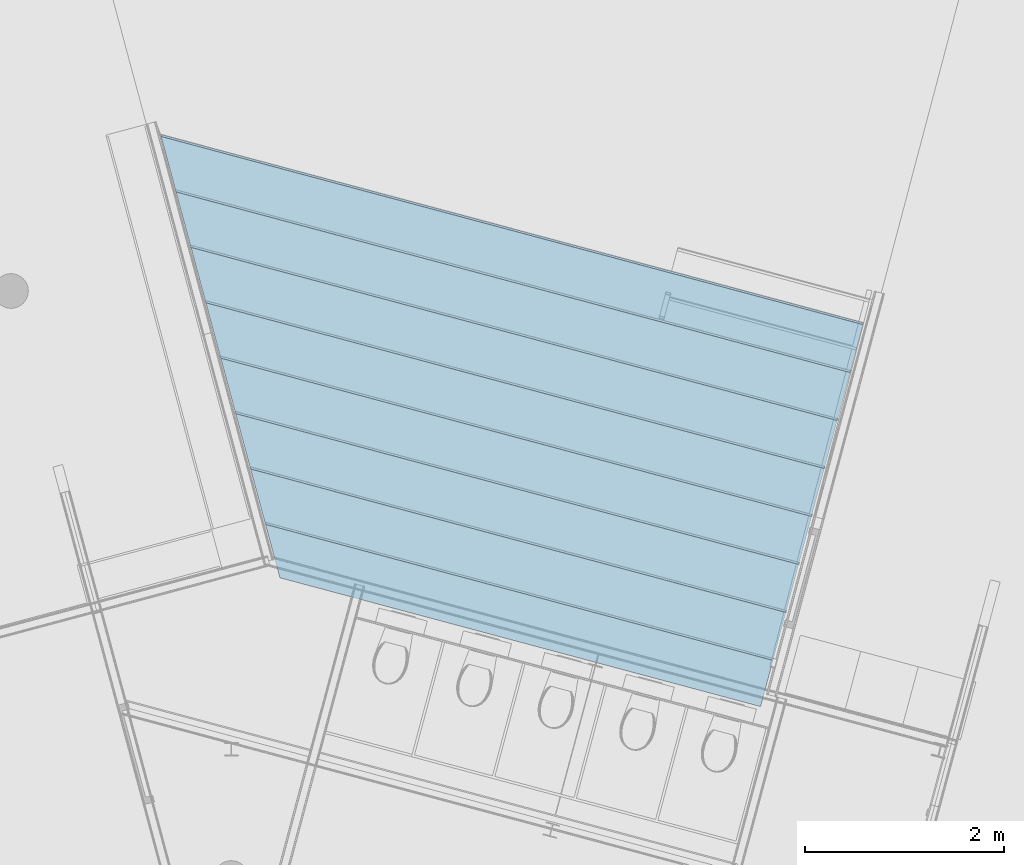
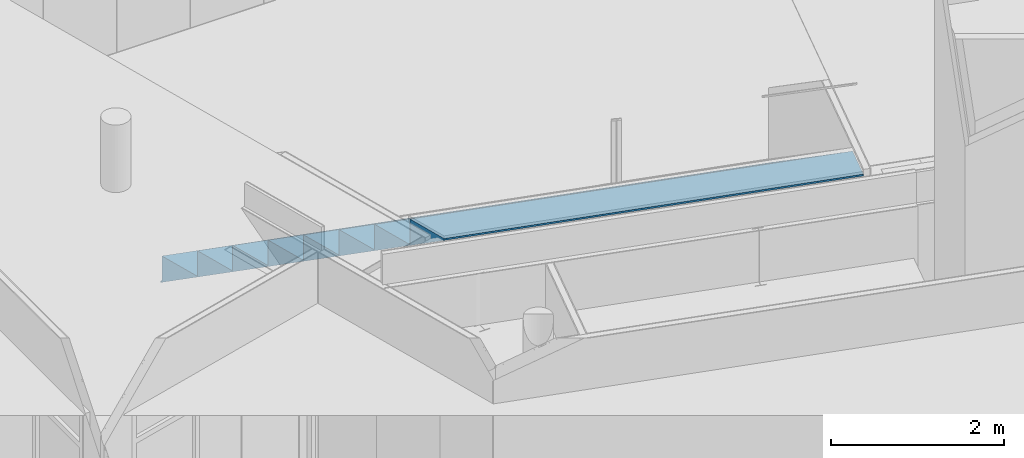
# One storey, part 22 of 167: 1 stair flight, 1 element without a shape of its own.
"""IFC2X3 building model written with IfcOpenShell, lengths in millimetres."""

import ifcopenshell
import ifcopenshell.guid

model = None  # the IFC model being written
_history = None  # IfcOwnerHistory: only IFC2X3 demands one
_inside = {}  # id of a spatial element -> (the spatial element, [elements in it])
_under = {}  # id of a project, library or spatial element -> (it, [spatial elements below it])
_declared = {}  # id of a project -> (the project, [libraries it declares])
_typed = {}  # id of a type object -> (the type object, [elements of that type])
_made_of = {}  # id of a material, layer set ... -> (it, [elements and type objects made of it])


def new_model(schema):
    """Start an empty IFC model of exactly this schema.

    Asked for "IFC4X3", IfcOpenShell would pick the latest addendum, in which some entities
    have other attributes; the version numbers below select the first issue.
    IFC2X3 requires an IfcOwnerHistory on every rooted entity: one is made here for all.
    """
    global model, _history
    if schema == "IFC4X3":
        model = ifcopenshell.file(schema_version=(4, 3, 0, 0))
    else:
        model = ifcopenshell.file(schema=schema)
    _inside.clear()
    _under.clear()
    _declared.clear()
    _typed.clear()
    _made_of.clear()
    _history = None
    if model.schema == "IFC2X3":
        org = make("IfcOrganization", Name="unknown")
        user = make(
            "IfcPersonAndOrganization",
            ThePerson=make("IfcPerson", FamilyName="unknown"),
            TheOrganization=org,
        )
        app = make(
            "IfcApplication",
            ApplicationDeveloper=org,
            Version="unknown",
            ApplicationFullName="unknown",
            ApplicationIdentifier="unknown",
        )
        _history = make(
            "IfcOwnerHistory",
            OwningUser=user,
            OwningApplication=app,
            ChangeAction="ADDED",
            CreationDate=0,
        )
    return model


def make(cls, **values):
    """One entity of the class cls with the attributes given. An attribute that is None is left unset."""
    return model.create_entity(
        cls, **{name: value for name, value in values.items() if value is not None}
    )


def entity(cls, *values):
    """Any entity or typed value of the class cls, its attributes in the order of the schema. None: left unset."""
    e = model.create_entity(cls)
    for i, value in enumerate(values):
        if value is not None:
            e[i] = value
    return e


def rooted(cls, **values):
    """An entity with a GlobalId (a new one), such as an element, a storey or a relation."""
    return make(cls, GlobalId=ifcopenshell.guid.new(), OwnerHistory=_history, **values)


def si_unit(unit_type, name, prefix=None):
    """IfcSIUnit, for example si_unit("LENGTHUNIT", "METRE", prefix="MILLI")."""
    return make("IfcSIUnit", UnitType=unit_type, Prefix=prefix, Name=name)


def converted_unit(unit_type, name, factor, base, dimensions=None, offset=None):
    """IfcConversionBasedUnit, such as the inch: factor (a typed value) times the base unit."""
    return make(
        "IfcConversionBasedUnit"
        if offset is None
        else "IfcConversionBasedUnitWithOffset",
        ConversionOffset=offset,
        Dimensions=None
        if dimensions is None
        else entity("IfcDimensionalExponents", *dimensions),
        UnitType=unit_type,
        Name=name,
        ConversionFactor=make(
            "IfcMeasureWithUnit", ValueComponent=factor, UnitComponent=base
        ),
    )


def derived_unit(unit_type, elements):
    """IfcDerivedUnit: a product of units, each with its exponent."""
    return make(
        "IfcDerivedUnit",
        Elements=[
            make("IfcDerivedUnitElement", Unit=unit, Exponent=power)
            for unit, power in elements
        ],
        UnitType=unit_type,
    )


def money_unit(currency):
    """IfcMonetaryUnit."""
    return make("IfcMonetaryUnit", Currency=currency)


def assignment(units):
    """IfcUnitAssignment: the units of a project."""
    return None if units is None else make("IfcUnitAssignment", Units=units)


def point(xyz):
    """IfcCartesianPoint."""
    return None if xyz is None else make("IfcCartesianPoint", Coordinates=xyz)


def direction(xyz):
    """IfcDirection."""
    return None if xyz is None else make("IfcDirection", DirectionRatios=xyz)


def frame(location, z_axis=None, x_axis=None):
    """IfcAxis2Placement3D, a coordinate frame: its origin and axes. An axis left out is left unset."""
    return make(
        "IfcAxis2Placement3D",
        Location=point(location),
        Axis=direction(z_axis),
        RefDirection=direction(x_axis),
    )


def origin_with_axes():
    """The frame at (0, 0, 0) with the z axis (0, 0, 1) and the x axis (1, 0, 0) written out."""
    return frame((0.0, 0.0, 0.0), z_axis=(0.0, 0.0, 1.0), x_axis=(1.0, 0.0, 0.0))


def place(relative_to, where):
    """IfcLocalPlacement: puts the frame where relative to a parent placement (None: the world)."""
    return make(
        "IfcLocalPlacement", PlacementRelTo=relative_to, RelativePlacement=where
    )


def context(
    kind, dimensions, precision=None, world=None, true_north=None, identifier=None
):
    """IfcGeometricRepresentationContext, for example the 3D "Model" context."""
    return make(
        "IfcGeometricRepresentationContext",
        ContextIdentifier=identifier,
        ContextType=kind,
        CoordinateSpaceDimension=dimensions,
        Precision=precision,
        WorldCoordinateSystem=world,
        TrueNorth=true_north,
    )


def subcontext(parent, identifier, kind, view, scale=None):
    """IfcGeometricRepresentationSubContext, for example "Body" below "Model"."""
    return make(
        "IfcGeometricRepresentationSubContext",
        ContextIdentifier=identifier,
        ContextType=kind,
        ParentContext=parent,
        TargetScale=scale,
        TargetView=view,
    )


def project(units=None, contexts=None):
    """IfcProject with its units and contexts."""
    return rooted(
        "IfcProject",
        Name="project",
        RepresentationContexts=contexts,
        UnitsInContext=assignment(units),
    )


def spatial(cls, under=None, at=None, **own):
    """A site, building, storey or space (cls), placed at a placement, below another one or the project."""
    s = rooted(cls, ObjectPlacement=at, **own)
    if under is not None:
        _under.setdefault(under.id(), (under, []))[1].append(s)
    return s


def faces_of(points, faces, orient=None, outer=None):
    """IfcFace entities. A face is a list of loops; a loop is a list of indices into points, from 0.

    orient and outer hold one flag for each loop. By default every Orientation is true, the
    first loop of a face is its IfcFaceOuterBound and the others are IfcFaceBound.
    """
    made = []
    for i, loops in enumerate(faces):
        bounds = []
        for j, loop in enumerate(loops):
            is_outer = j == 0 if outer is None else outer[i][j]
            bounds.append(
                make(
                    "IfcFaceOuterBound" if is_outer else "IfcFaceBound",
                    Bound=make("IfcPolyLoop", Polygon=[points[k] for k in loop]),
                    Orientation=True if orient is None else orient[i][j],
                )
            )
        made.append(make("IfcFace", Bounds=bounds))
    return made


def faceted_brep(points, faces, orient=None, outer=None, voids=None):
    """IfcFacetedBrep: a solid bounded by flat faces; with voids (closed shells), ...WithVoids."""
    shared = [point(p) for p in points]
    hull = make("IfcClosedShell", CfsFaces=faces_of(shared, faces, orient, outer))
    if voids is None:
        return make("IfcFacetedBrep", Outer=hull)
    return make(
        "IfcFacetedBrepWithVoids",
        Outer=hull,
        Voids=[
            make(cls, CfsFaces=faces_of(shared, fs, o, b)) for cls, fs, o, b in voids
        ],
    )


def shape(context_of_items, identifier, shape_type, items):
    """IfcShapeRepresentation: the items that make up one representation, for example the "Body"."""
    return make(
        "IfcShapeRepresentation",
        ContextOfItems=context_of_items,
        RepresentationIdentifier=identifier,
        RepresentationType=shape_type,
        Items=items,
    )


def material(Name=None, Category=None):
    """IfcMaterial."""
    return make("IfcMaterial", Name=Name, Category=Category)


def made_of(thing, what):
    """Note that an element or type object is made of a material, layer set ...; save() writes the relation."""
    if what is not None:
        _made_of.setdefault(what.id(), (what, []))[1].append(thing)
    return thing


def type_object(cls, material=None, **own):
    """A type object (cls), such as IfcWallType, which elements share."""
    return made_of(rooted(cls, **own), material)


def element(
    cls,
    number,
    at=None,
    inside=None,
    cuts=None,
    type_object=None,
    material=None,
    context=None,
    identifier="Body",
    shape_type=None,
    held_by="IfcProductDefinitionShape",
    body=None,
    shapes=None,
    **own,
):
    """One element of the class cls, such as IfcWall. Its Tag is "e" and its number.

    at: its placement. inside: the storey or other place that contains it. cuts: it is an
    opening in that element (IfcRelVoidsElement). A single representation is given by context,
    identifier, shape_type and body (its items); several are given by shapes. held_by: the class
    of the entity that holds the representations. save() writes the other relations.
    """
    e = rooted(cls, Tag="e%d" % number, ObjectPlacement=at, **own)
    if body is not None:
        shapes = [shape(context, identifier, shape_type, body)]
    if shapes is not None:
        e.Representation = make(held_by, Representations=shapes)
    if inside is not None:
        _inside.setdefault(inside.id(), (inside, []))[1].append(e)
    if cuts is not None:
        rooted(
            "IfcRelVoidsElement", RelatingBuildingElement=cuts, RelatedOpeningElement=e
        )
    if type_object is not None:
        _typed.setdefault(type_object.id(), (type_object, []))[1].append(e)
    return made_of(e, material)


def aggregate(whole, parts):
    """IfcRelAggregates: a whole, such as a stair, and the parts it consists of."""
    return rooted("IfcRelAggregates", RelatingObject=whole, RelatedObjects=parts)


def save(model, path):
    """Write the relations noted so far, then the file.

    IfcRelAggregates (storeys below a building ...), IfcRelContainedInSpatialStructure (elements
    in a storey), IfcRelDefinesByType, IfcRelAssociatesMaterial and IfcRelDeclares: one each for
    every whole, place, type object, material and project.
    """
    for whole, parts in _under.values():
        aggregate(whole, parts)
    for where, things in _inside.values():
        rooted(
            "IfcRelContainedInSpatialStructure",
            RelatedElements=things,
            RelatingStructure=where,
        )
    for kind, things in _typed.values():
        rooted("IfcRelDefinesByType", RelatedObjects=things, RelatingType=kind)
    for what, things in _made_of.values():
        rooted("IfcRelAssociatesMaterial", RelatedObjects=things, RelatingMaterial=what)
    for by, libraries in _declared.values():
        rooted("IfcRelDeclares", RelatingContext=by, RelatedDefinitions=libraries)
    model.write(path)


model = new_model("IFC2X3")

# Units and contexts
model_context = context("Model", 3, precision=0.01, world=origin_with_axes(), true_north=direction((0.0, 1.0)))
plan_context = context("Plan", 3, precision=0.01, world=origin_with_axes(), true_north=direction((0.0, 1.0)))
body_context = subcontext(model_context, "Body", "Model", "MODEL_VIEW")
ifc_project = project(units=[si_unit("LENGTHUNIT", "METRE", prefix="MILLI"), si_unit("AREAUNIT", "SQUARE_METRE"), si_unit("VOLUMEUNIT", "CUBIC_METRE"), converted_unit("PLANEANGLEUNIT", "DEGREE", entity("IfcPlaneAngleMeasure", 0.0174532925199), si_unit("PLANEANGLEUNIT", "RADIAN"), dimensions=[0, 0, 0, 0, 0, 0, 0]), si_unit("SOLIDANGLEUNIT", "STERADIAN"), money_unit("EUR"), converted_unit("TIMEUNIT", "Year", entity("IfcTimeMeasure", 31556926.0), si_unit("TIMEUNIT", "SECOND"), dimensions=[0, 0, 1, 0, 0, 0, 0]), si_unit("MASSUNIT", "GRAM", prefix="KILO"), si_unit("THERMODYNAMICTEMPERATUREUNIT", "DEGREE_CELSIUS"), si_unit("LUMINOUSINTENSITYUNIT", "LUMEN"), si_unit("ENERGYUNIT", "JOULE", prefix="MEGA"), derived_unit("THERMALCONDUCTANCEUNIT", [(si_unit("POWERUNIT", "WATT"), 1), (si_unit("LENGTHUNIT", "METRE"), -1), (si_unit("THERMODYNAMICTEMPERATUREUNIT", "KELVIN"), -1)]), derived_unit("SPECIFICHEATCAPACITYUNIT", [(si_unit("ENERGYUNIT", "JOULE"), 1), (si_unit("MASSUNIT", "GRAM", prefix="KILO"), -1), (si_unit("THERMODYNAMICTEMPERATUREUNIT", "KELVIN"), -1)]), derived_unit("MASSDENSITYUNIT", [(si_unit("MASSUNIT", "GRAM", prefix="KILO"), 1), (si_unit("VOLUMEUNIT", "CUBIC_METRE"), -1)])], contexts=[model_context, plan_context])

# Site, building, storey
site_placement = place(None, origin_with_axes())
site = spatial("IfcSite", under=ifc_project, at=site_placement, Name="Site", CompositionType="ELEMENT")
building_placement = place(site_placement, origin_with_axes())
building = spatial("IfcBuilding", under=site, at=building_placement, Name="Naam gebouw", CompositionType="ELEMENT")
storey_placement = place(building_placement, origin_with_axes())
storey = spatial("IfcBuildingStorey", under=building, at=storey_placement, Name="Begane grond", CompositionType="ELEMENT", Elevation=0.0)

# Stair, stair flight
stair_placement = place(storey_placement, frame((20763.4047106, 18904.1199995, 0.0), z_axis=(0.0, 0.0, 1.0), x_axis=(0.980577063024, 0.196134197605, 0.0)))
stair = element("IfcStair", 1, at=stair_placement, inside=storey, Name="_Trap_Trap-x", ShapeType="NOTDEFINED")
ifc_material = material(Name="Beton C")
stair_flight_type = type_object("IfcStairFlightType", Name="IfcStairFlight", PredefinedType="NOTDEFINED")
stair_flight_placement = place(stair_placement, origin_with_axes())
stair_flight = element("IfcStairFlight", 2, at=stair_flight_placement, type_object=stair_flight_type, material=ifc_material, Name="_Trapsegment_Trapsegment-x", context=body_context, shape_type="Brep", body=[
    faceted_brep([(-44.3243105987, -89.6401444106, 8.6456625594), (-36.9369254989, -74.7001203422, -3.3543374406), (0.0, 0.0, -63.3543374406), (0.0, 0.0, -38.0), (-8.02270076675, -16.2248658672, -38.0), (-8.02270076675, -16.2248658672, 322.0), (-229.644253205, -464.425588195, 322.0), (-229.644253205, -464.425588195, 682.0), (-451.265806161, -912.626310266, 682.0), (-451.265806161, -912.626310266, 1042.0), (-672.88735924, -1360.82703228, 1042.0), (-672.88735924, -1360.82703228, 1402.0), (-894.508910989, -1809.02775495, 1402.0), (-894.508910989, -1809.02775495, 1762.0), (-1116.13046614, -2257.22847593, 1762.0), (-1116.13046614, -2257.22847593, 2122.0), (-1337.75201901, -2705.42919805, 2122.0), (-1337.75201901, -2705.42919805, 2482.0), (-1559.37357117, -3153.62992051, 2482.0), (-1559.37357117, -3153.62992051, 2842.0), (-1772.97242395, -3585.60577642, 2842.0), (-1772.97242395, -3585.60577642, 2816.64566256), (-1736.03549845, -3510.90565608, 2756.64566256), (-1728.64811335, -3495.96563201, 2744.64566256), (-1699.09857295, -3436.20553574, 2696.64566256), (-1684.32380275, -3406.3254876, 2672.64566256), (-1662.16164745, -3361.5054154, 2636.64566256), (-1639.99949215, -3316.68534319, 2600.64566256), (-1625.22472195, -3286.80529505, 2576.64566256), (-1595.67518155, -3227.04519878, 2528.64566256), (-1588.28779645, -3212.10517471, 2516.64566256), (-1551.35087095, -3137.40505437, 2456.64566256), (-1514.41394546, -3062.70493403, 2396.64566256), (-1477.47701996, -2988.00481369, 2336.64566256), (-1440.54009446, -2913.30469334, 2276.64566256), (-1403.60316896, -2838.604573, 2216.64566256), (-1366.66624346, -2763.90445266, 2156.64566256), (-1329.72928352, -2689.20434935, 2096.64566256), (-1292.79235802, -2614.50422901, 2036.64566256), (-1285.40497292, -2599.56420494, 2024.64566256), (-1255.85543252, -2539.80410866, 1976.64566256), (-1241.08066232, -2509.92406053, 1952.64566256), (-1218.91850702, -2465.10398832, 1916.64566256), (-1196.75635172, -2420.28391612, 1880.64566256), (-1181.98158152, -2390.40386798, 1856.64566256), (-1152.43204112, -2330.64377171, 1808.64566256), (-1145.04465602, -2315.70374764, 1796.64566256), (-1108.10773052, -2241.0036273, 1736.64566256), (-1071.17083947, -2166.30348992, 1676.64566256), (-1034.23391397, -2091.60336958, 1616.64566256), (-997.296988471, -2016.90324924, 1556.64566256), (-960.360062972, -1942.2031289, 1496.64566256), (-923.423137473, -1867.50300855, 1436.64566256), (-886.486210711, -1792.80288884, 1376.64566256), (-849.549285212, -1718.10276849, 1316.64566256), (-812.612359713, -1643.40264815, 1256.64566256), (-775.675434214, -1568.70252781, 1196.64566256), (-738.738508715, -1494.00240747, 1136.64566256), (-701.801583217, -1419.30228713, 1076.64566256), (-664.864657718, -1344.60216678, 1016.64566256), (-627.927733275, -1269.90204592, 956.645662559), (-620.540348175, -1254.96202185, 944.645662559), (-590.990807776, -1195.20192558, 896.645662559), (-576.216037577, -1165.32187744, 872.645662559), (-554.053882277, -1120.50180523, 836.645662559), (-531.891726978, -1075.68173303, 800.645662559), (-517.116956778, -1045.80168489, 776.645662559), (-487.567416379, -986.041588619, 728.645662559), (-480.180031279, -971.10156455, 716.645662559), (-443.243105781, -896.401444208, 656.645662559), (-406.306180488, -821.701323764, 596.645662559), (-369.369254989, -747.001203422, 536.645662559), (-332.43232949, -672.301083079, 476.645662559), (-295.495403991, -597.600962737, 416.645662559), (-258.558478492, -522.900842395, 356.645662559), (-221.621552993, -448.200722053, 296.645662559), (-184.684627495, -373.500601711, 236.645662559), (-177.297242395, -358.560577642, 224.645662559), (-147.747701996, -298.800481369, 176.645662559), (-132.972931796, -268.920433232, 152.645662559), (-110.810776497, -224.100361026, 116.645662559), (-88.6486211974, -179.280288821, 80.6456625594), (-73.8738509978, -149.400240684, 56.6456625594), (-6559.88813817, 3150.69981037, -3.3543374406), (-6558.62650038, 3131.48310893, 8.6456625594), (-6566.19632713, 3246.78331755, -63.3543374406), (-6566.19632713, 3246.78331755, -38.0), (-6564.82618916, 3225.91398013, -38.0), (-6564.82618916, 3225.91398013, 322.0), (-6526.97705501, 2649.41293678, 322.0), (-6526.97705501, 2649.41293678, 682.0), (-6489.12792074, 2072.91189339, 682.0), (-6489.12792074, 2072.91189339, 1042.0), (-6451.27878704, 1496.41085027, 1042.0), (-6451.27878704, 1496.41085027, 1402.0), (-6413.42965392, 919.909807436, 1402.0), (-6413.42965392, 919.909807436, 1762.0), (-6375.58052012, 343.408764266, 1762.0), (-6375.58052012, 343.408764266, 2122.0), (-6337.73138718, -233.092278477, 2122.0), (-6337.73138718, -233.092278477, 2482.0), (-6299.8822524, -809.593322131, 2482.0), (-6299.8822524, -809.593322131, 2842.0), (-6263.40325731, -1365.2250275, 2842.0), (-6263.40328748, -1365.22501258, 2816.64566256), (-6269.71147644, -1269.14150539, 2756.64566256), (-6270.97311423, -1249.92480395, 2744.64566256), (-6276.01966539, -1173.0579982, 2696.64566256), (-6278.54294097, -1134.62459533, 2672.64566256), (-6282.32785435, -1076.97449101, 2636.64566256), (-6286.11276772, -1019.3243867, 2600.64566256), (-6288.6360433, -980.890983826, 2576.64566256), (-6293.68259447, -904.024178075, 2528.64566256), (-6294.94423226, -884.807476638, 2516.64566256), (-6301.2523987, -788.72398058, 2456.64566256), (-6307.56058765, -692.640473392, 2396.64566256), (-6313.86877661, -596.556966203, 2336.64566256), (-6320.17696556, -500.473459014, 2276.64566256), (-6326.48515452, -404.389951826, 2216.64566256), (-6332.79334347, -308.306444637, 2156.64566256), (-6339.10153243, -212.222937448, 2096.64566256), (-6345.40972362, -116.13942915, 2036.64566256), (-6346.67136142, -96.9227277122, 2024.64566256), (-6351.71791258, -20.0559219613, 1976.64566256), (-6354.24118816, 18.3774809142, 1952.64566256), (-6358.02610153, 76.0275852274, 1916.64566256), (-6361.81101491, 133.677689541, 1880.64566256), (-6364.33429049, 172.111092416, 1856.64566256), (-6369.38084165, 248.977898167, 1808.64566256), (-6370.64247944, 268.194599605, 1796.64566256), (-6376.95065849, 364.278101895, 1736.64566256), (-6383.25884744, 460.361609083, 1676.64566256), (-6389.5670364, 556.445116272, 1616.64566256), (-6395.87522535, 652.528623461, 1556.64566256), (-6402.18341431, 748.612130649, 1496.64566256), (-6408.49160326, 844.695637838, 1436.64566256), (-6414.79979222, 940.779145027, 1376.64566256), (-6421.10798117, 1036.86265222, 1316.64566256), (-6427.41617013, 1132.9461594, 1256.64566256), (-6433.72435908, 1229.02966659, 1196.64566256), (-6440.03254804, 1325.11317378, 1136.64566256), (-6446.34073699, 1421.19668097, 1076.64566256), (-6452.64892594, 1517.28018816, 1016.64566256), (-6458.95712203, 1613.36369887, 956.645662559), (-6460.21875982, 1632.58040031, 944.645662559), (-6465.26531098, 1709.44720606, 896.645662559), (-6467.78858656, 1747.88060894, 872.645662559), (-6471.57349994, 1805.53071325, 836.645662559), (-6475.35841331, 1863.18081756, 800.645662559), (-6477.88168889, 1901.61422044, 776.645662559), (-6482.92824005, 1978.48102619, 728.645662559), (-6484.18987785, 1997.69772763, 716.645662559), (-6490.4980668, 2093.78123482, 656.645662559), (-6496.80626784, 2189.86474798, 596.645662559), (-6503.11445679, 2285.94825517, 536.645662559), (-6509.42264575, 2382.03176236, 476.645662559), (-6515.7308347, 2478.11526955, 416.645662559), (-6522.03902366, 2574.19877674, 356.645662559), (-6528.3471934, 2670.28227442, 296.645662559), (-6534.65538235, 2766.36578161, 236.645662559), (-6535.91702014, 2785.58248305, 224.645662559), (-6540.96357131, 2862.4492888, 176.645662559), (-6543.48684689, 2900.88269168, 152.645662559), (-6547.27176026, 2958.53279599, 116.645662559), (-6551.05667363, 3016.1829003, 80.6456625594), (-6553.57994922, 3054.61630318, 56.6456625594)], [[[0, 1, 2, 3, 4, 5, 6, 7, 8, 9, 10, 11, 12, 13, 14, 15, 16, 17, 18, 19, 20, 21, 22, 23, 24, 25, 26, 27, 28, 29, 30, 31, 32, 33, 34, 35, 36, 37, 38, 39, 40, 41, 42, 43, 44, 45, 46, 47, 48, 49, 50, 51, 52, 53, 54, 55, 56, 57, 58, 59, 60, 61, 62, 63, 64, 65, 66, 67, 68, 69, 70, 71, 72, 73, 74, 75, 76, 77, 78, 79, 80, 81, 82]], [[83, 1, 0, 84]], [[85, 2, 1, 83]], [[3, 2, 85, 86]], [[86, 87, 4, 3]], [[4, 87, 88, 5]], [[6, 5, 88, 89]], [[6, 89, 90, 7]], [[8, 7, 90, 91]], [[8, 91, 92, 9]], [[10, 9, 92, 93]], [[10, 93, 94, 11]], [[12, 11, 94, 95]], [[12, 95, 96, 13]], [[14, 13, 96, 97]], [[14, 97, 98, 15]], [[16, 15, 98, 99]], [[16, 99, 100, 17]], [[18, 17, 100, 101]], [[18, 101, 102, 19]], [[103, 20, 19, 102]], [[103, 104, 21, 20]], [[105, 22, 21, 104]], [[106, 23, 22, 105]], [[107, 24, 23, 106]], [[108, 25, 24, 107]], [[109, 26, 25, 108]], [[110, 27, 26, 109]], [[111, 28, 27, 110]], [[112, 29, 28, 111]], [[113, 30, 29, 112]], [[114, 31, 30, 113]], [[115, 32, 31, 114]], [[116, 33, 32, 115]], [[117, 34, 33, 116]], [[118, 35, 34, 117]], [[119, 36, 35, 118]], [[120, 37, 36, 119]], [[121, 38, 37, 120]], [[122, 39, 38, 121]], [[123, 40, 39, 122]], [[124, 41, 40, 123]], [[125, 42, 41, 124]], [[126, 43, 42, 125]], [[127, 44, 43, 126]], [[128, 45, 44, 127]], [[129, 46, 45, 128]], [[130, 47, 46, 129]], [[131, 48, 47, 130]], [[132, 49, 48, 131]], [[133, 50, 49, 132]], [[134, 51, 50, 133]], [[135, 52, 51, 134]], [[136, 53, 52, 135]], [[137, 54, 53, 136]], [[138, 55, 54, 137]], [[139, 56, 55, 138]], [[140, 57, 56, 139]], [[141, 58, 57, 140]], [[142, 59, 58, 141]], [[143, 60, 59, 142]], [[144, 61, 60, 143]], [[145, 62, 61, 144]], [[146, 63, 62, 145]], [[147, 64, 63, 146]], [[148, 65, 64, 147]], [[149, 66, 65, 148]], [[150, 67, 66, 149]], [[151, 68, 67, 150]], [[152, 69, 68, 151]], [[153, 70, 69, 152]], [[154, 71, 70, 153]], [[155, 72, 71, 154]], [[156, 73, 72, 155]], [[157, 74, 73, 156]], [[158, 75, 74, 157]], [[159, 76, 75, 158]], [[160, 77, 76, 159]], [[161, 78, 77, 160]], [[162, 79, 78, 161]], [[163, 80, 79, 162]], [[164, 81, 80, 163]], [[165, 82, 81, 164]], [[84, 0, 82, 165]], [[106, 105, 104, 103, 102, 101, 100, 99, 98, 97, 96, 95, 94, 93, 92, 91, 90, 89, 88, 87, 86, 85, 83, 84, 165, 164, 163, 162, 161, 160, 159, 158, 157, 156, 155, 154, 153, 152, 151, 150, 149, 148, 147, 146, 145, 144, 143, 142, 141, 140, 139, 138, 137, 136, 135, 134, 133, 132, 131, 130, 129, 128, 127, 126, 125, 124, 123, 122, 121, 120, 119, 118, 117, 116, 115, 114, 113, 112, 111, 110, 109, 108, 107]]]),
])
aggregate(stair, [stair_flight])

save(model, "model.ifc")
